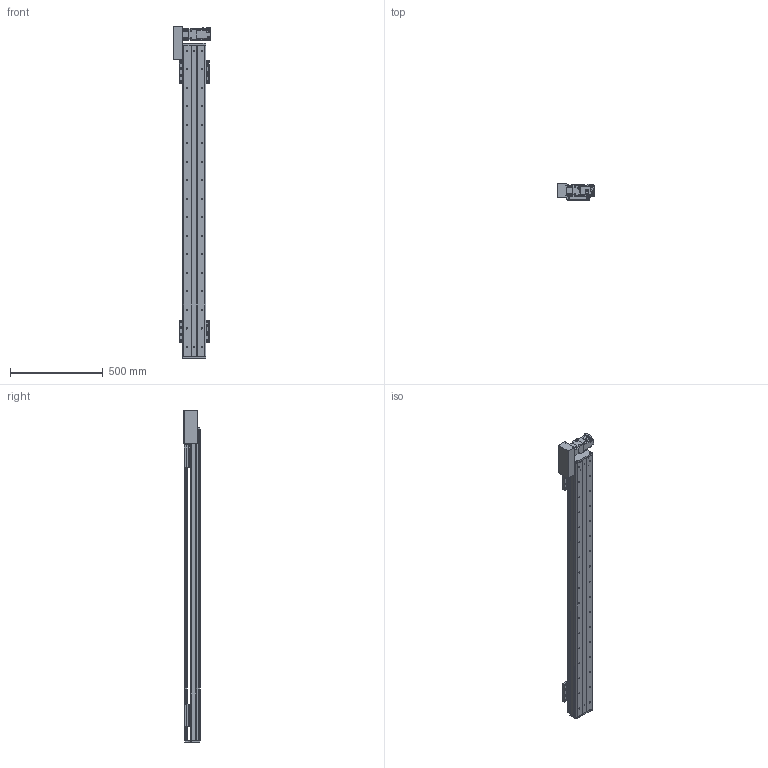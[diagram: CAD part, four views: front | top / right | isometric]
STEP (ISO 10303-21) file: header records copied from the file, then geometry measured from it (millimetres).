
FILE_DESCRIPTION(/* description */ (''),/* implementation_level */ '2;1');
FILE_NAME(/* name */ 'C:\Users\PC\Desktop\3D도면\STEP\DSB125-L2G-W1400-R.stp',/* time_stamp */ '2018-06-13T13:50:36+09:00',/* author */ ('PC'),/* organization */ (''),/* preprocessor_version */ 'ST-DEVELOPER v16.5',/* originating_system */ 'Autodesk Inventor 2017',/* authorisation */ '');
FILE_SCHEMA (('AUTOMOTIVE_DESIGN { 1 0 10303 214 3 1 1 }'));
Length unit declared in the file: millimetre
Products named in the file (12): DSB125-L-300ST; DSR125-BASE(S-TYPE); DSR125-REAR COVER-R01(170203); DSR125-REAR COVER-R01(170203)_1; DSR125-UP COVER-R01(170203); DSR125-TABLE(MSA15X); hg-kr23_; ab0601-p0401200402; 13-BELT COVER; DSR126-SENSOR DOG; pm-y65_step; SENSOR BRACKET(EE-SX674A)
Assembly tree (16 placements, depth 2):
  DSB125-L-300ST
    DSR125-BASE(S-TYPE)
    DSR125-REAR COVER-R01(170203)
    DSR125-REAR COVER-R01(170203)_1
    DSR125-UP COVER-R01(170203)
    DSR125-TABLE(MSA15X)  x2
    hg-kr23_
    ab0601-p0401200402
    13-BELT COVER
    DSR126-SENSOR DOG
    pm-y65_step  x3
    SENSOR BRACKET(EE-SX674A)  x3
Bounding box: 202.1 x 88 x 1794 mm (x, y, z)
Volume: 5941662 mm3; surface area: 1710044.6 mm2
Topology: 17 solids, 22 shells, 1689 faces, 4571 edges, 3012 vertices
Faces by surface type: plane 908, cylinder 645, cone 124, sphere 8, torus 4
Full cylindrical faces by diameter (mm): 2.459 x20, 3.242 x16, 3.5 x6, 4 x1, 4.134 x16, 4.2 x4, 4.3 x1, 4.5 x50, 4.917 x20, 5 x27, 5.3 x1, 5.5 x4, 5.6 x8, 5.8 x4, 5.9 x8, 6 x4, 6.6 x22, 6.647 x34, 7.5 x32, 8.5 x8, 8.7 x1, 11 x22, 14 x1, 16 x2, 17 x1, 20 x1, 47 x1, 50 x3
Entity records: 35910 total; most frequent: CARTESIAN_POINT 6583, DIRECTION 6236, ORIENTED_EDGE 5534, EDGE_CURVE 2772, AXIS2_PLACEMENT_3D 2306, VERTEX_POINT 1981, EDGE_LOOP 1729, LINE 1624
